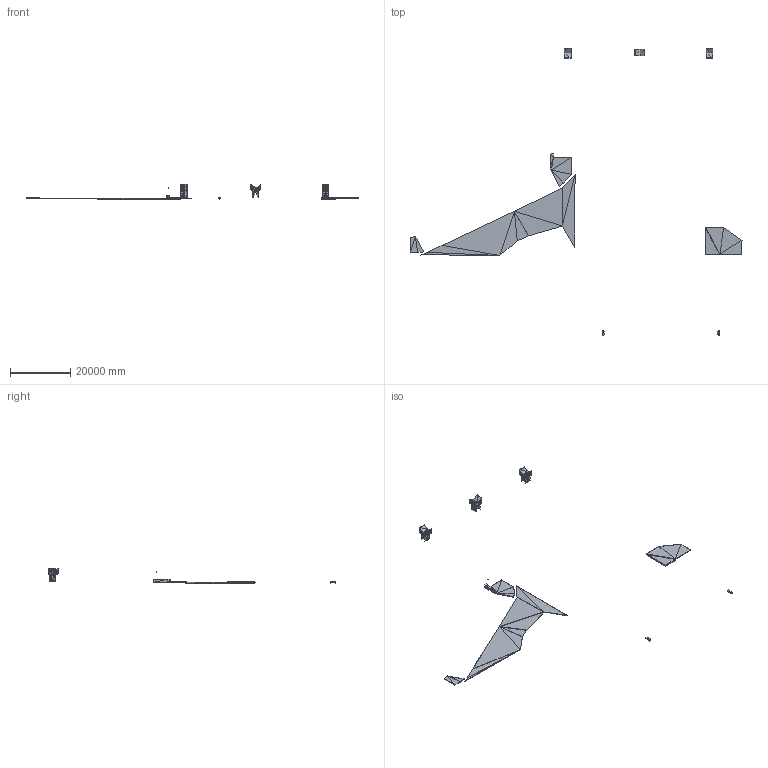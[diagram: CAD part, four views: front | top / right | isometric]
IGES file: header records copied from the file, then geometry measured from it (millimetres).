
Global section: file name: C:\Users\armin\Desktop\1.IGS; native system:  3D Studio VIZ R3.0 ; preprocessor:  3D Studio VIZ Iges Exporter R3.0 ; author: No Author specified; organization: No Organization specified; units: inch
Bounding box: 110192.57 x 95546.82 x 5034.63 mm (x, y, z)
Surface area: 1555488702.1 mm2 (no closed solid volume)
Topology: 0 solids, 0 shells, 3152 faces, 38515 edges, 35366 vertices
Faces by surface type: bspline 3152
